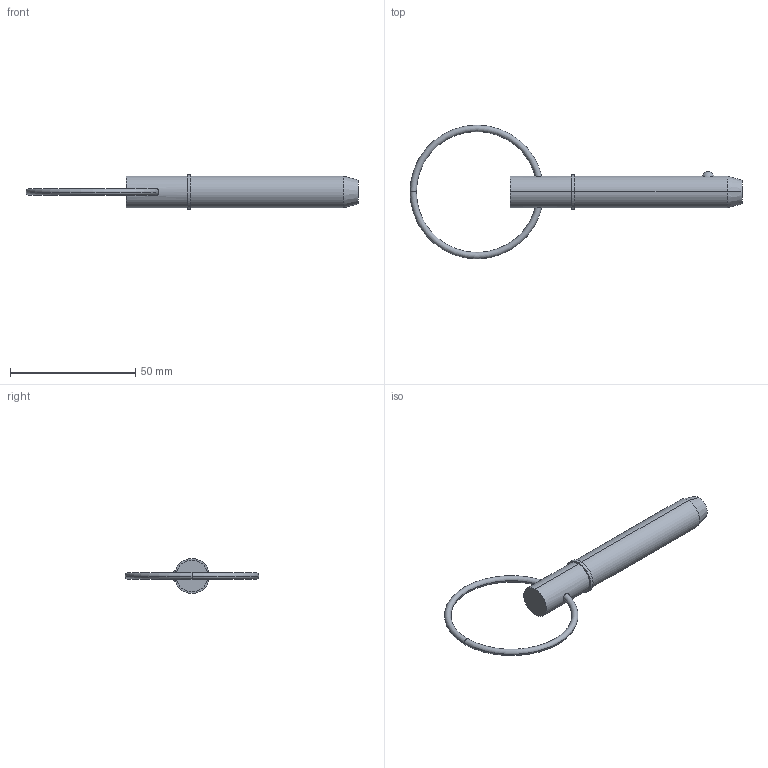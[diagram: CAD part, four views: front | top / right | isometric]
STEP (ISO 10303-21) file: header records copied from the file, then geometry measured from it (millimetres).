
FILE_DESCRIPTION (( 'STEP AP203' ), '1' );
FILE_NAME ('33016.W5020.step', '2024-11-07T11:08:56', ( '' ), ( '' ), 'SwSTEP 2.0', 'SolidWorks 2019', '' );
FILE_SCHEMA (( 'CONFIG_CONTROL_DESIGN' ));
Length unit declared in the file: millimetre
Products named in the file (3): Part1_33016.W5020; Part2_33016.W5020; 33016.W5020
Assembly tree (2 placements, depth 2):
  33016.W5020
    Part1_33016.W5020
    Part2_33016.W5020
Bounding box: 132.43 x 53.34 x 13.97 mm (x, y, z)
Volume: 12292.2 mm3; surface area: 5315.2 mm2
Topology: 2 solids, 2 shells, 22 faces, 43 edges, 26 vertices
Faces by surface type: torus 8, cylinder 6, plane 4, sphere 2, cone 2
Entity records: 1039 total; most frequent: CARTESIAN_POINT 262, DIRECTION 120, ORIENTED_EDGE 86, AXIS2_PLACEMENT_3D 56, EDGE_CURVE 43, CIRCLE 29, EDGE_LOOP 27, PERSON_AND_ORGANIZATION 26
